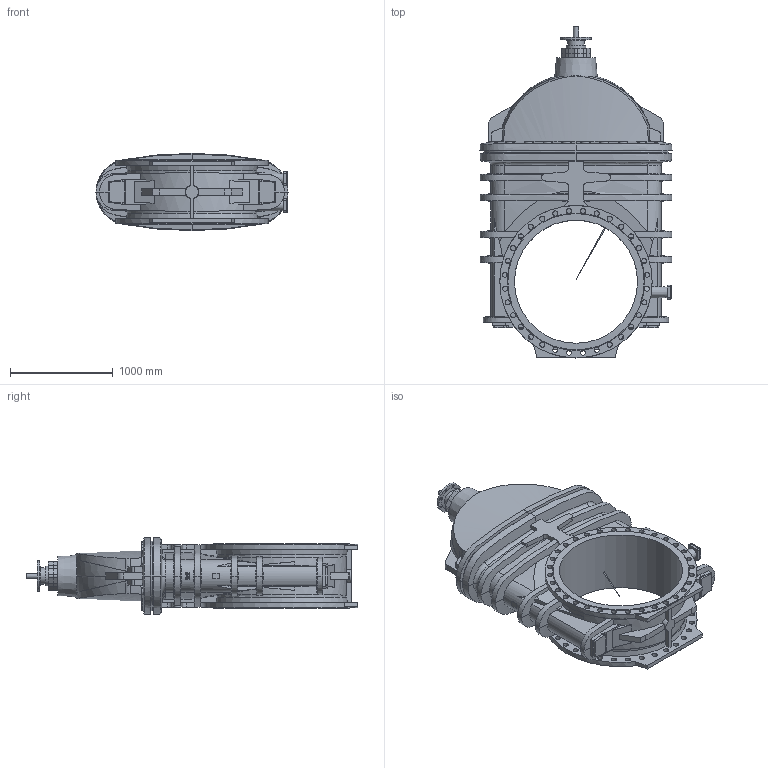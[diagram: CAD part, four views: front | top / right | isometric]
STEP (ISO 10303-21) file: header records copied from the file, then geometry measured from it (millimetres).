
FILE_DESCRIPTION (( 'STEP AP203' ), '1' );
FILE_NAME ('O_06_30_DN1200_X91XXXXX_REV01.step', '2023-07-04T06:11:57', ( '' ), ( '' ), 'SwSTEP 2.0', 'SolidWorks 2022', '' );
FILE_SCHEMA (( 'CONFIG_CONTROL_DESIGN' ));
Length unit declared in the file: millimetre
Products named in the file (1): O_06_30_DN1200_X91XXXXX_REV01
Bounding box: 1872.55 x 3235.6 x 752.55 mm (x, y, z)
Volume: 1281319142.3 mm3; surface area: 18023810.4 mm2
Topology: 1 solids, 1 shells, 750 faces, 2142 edges, 1416 vertices
Faces by surface type: plane 386, cylinder 220, bspline 120, cone 24
Full cylindrical faces by diameter (mm): 20 x8, 50 x65, 159.5 x1, 190 x1, 300 x1, 1200 x1, 1485 x2
Entity records: 54021 total; most frequent: CARTESIAN_POINT 36393, ORIENTED_EDGE 4022, DIRECTION 2932, EDGE_CURVE 2011, VERTEX_POINT 1373, AXIS2_PLACEMENT_3D 1088, EDGE_LOOP 1002, FACE_OUTER_BOUND 827
